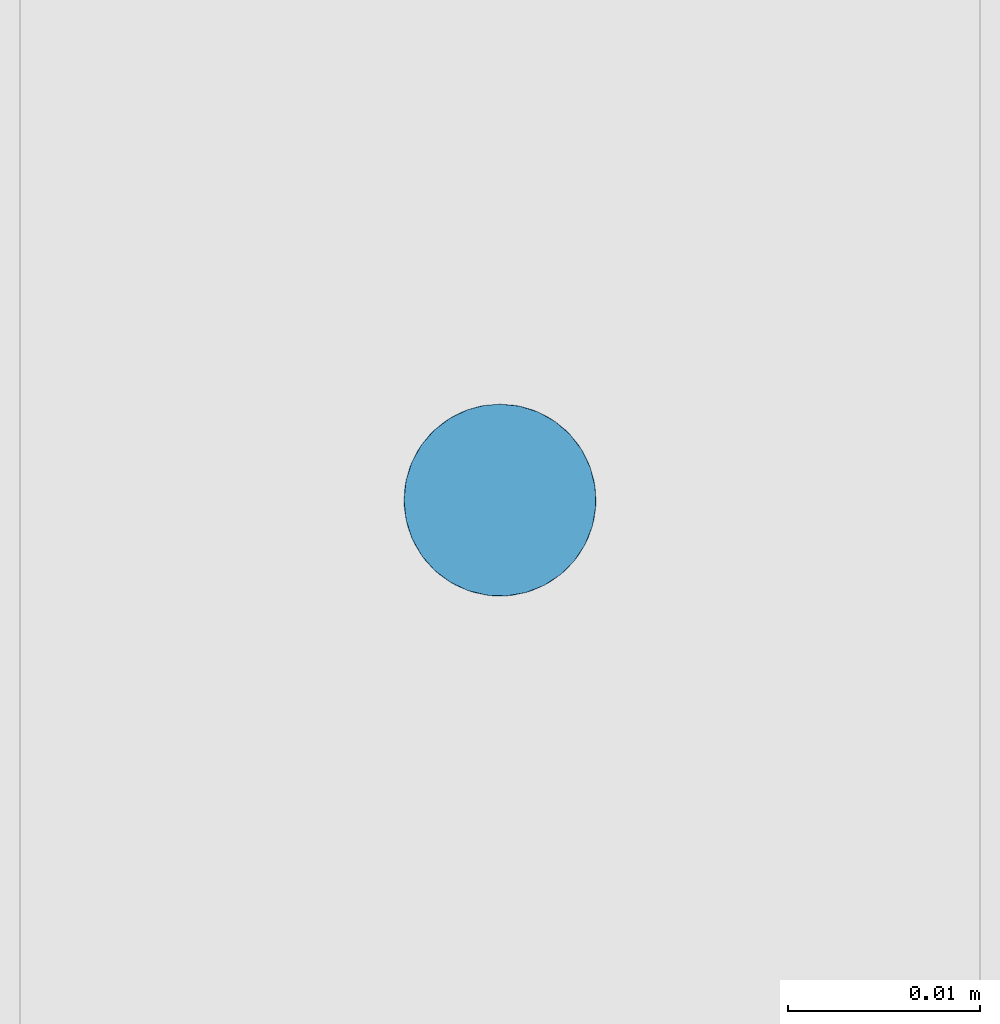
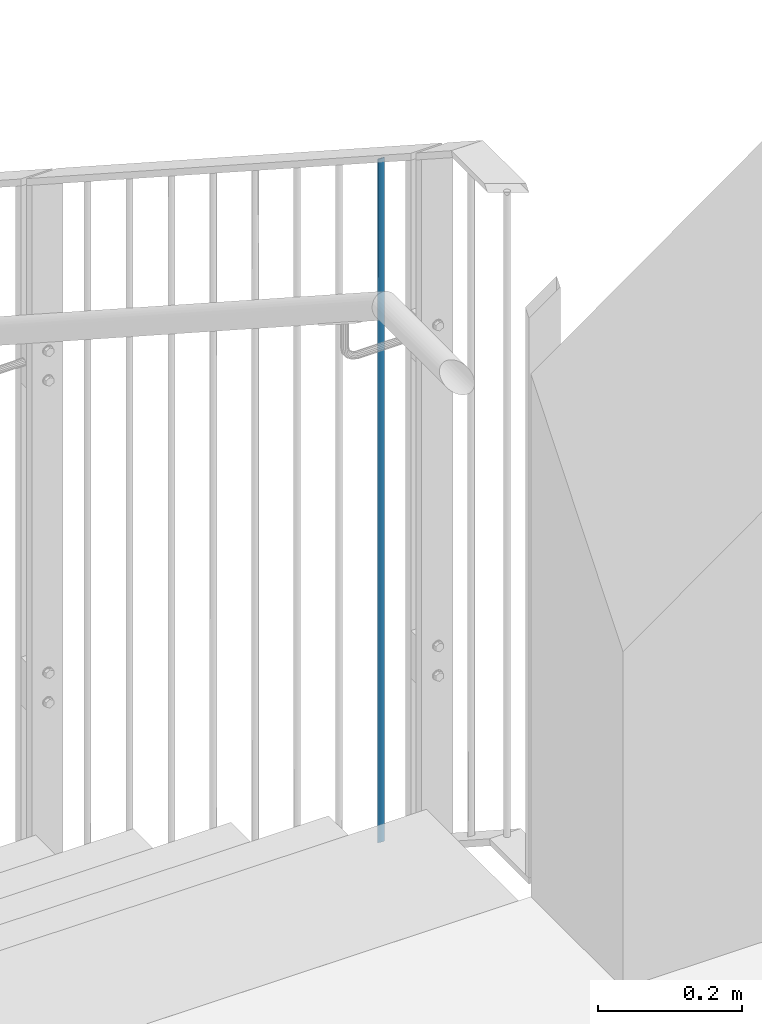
# One storey, part 28 of 296: 1 column.
"""IFC2X3 building model written with IfcOpenShell, lengths in millimetres."""

from ifc_helpers import new_model, entity, si_unit, converted_unit, frame, origin, origin_with_axes, origin_2d, place, context, project, spatial, circle, extrude, clip, halfspace, material, element, save


model = new_model("IFC2X3")

# Units and contexts
model_context = context("Model", 3, precision=1e-09, world=origin_with_axes())
ifc_project = project(units=[si_unit("LENGTHUNIT", "METRE", prefix="MILLI"), si_unit("AREAUNIT", "SQUARE_METRE"), si_unit("VOLUMEUNIT", "CUBIC_METRE"), converted_unit("PLANEANGLEUNIT", "DEGREE", entity("IfcPlaneAngleMeasure", 0.01745329), si_unit("PLANEANGLEUNIT", "RADIAN"), dimensions=[0, 0, 0, 0, 0, 0, 0])], contexts=[model_context])

# Site, building, storey
site_placement = place(None, origin_with_axes())
site = spatial("IfcSite", under=ifc_project, at=site_placement, Name="TZD-S?d | Treppenhausgel?nder", CompositionType="ELEMENT")
building_placement = place(site_placement, origin_with_axes())
building = spatial("IfcBuilding", under=site, at=building_placement, Name="Struktur 1", CompositionType="ELEMENT")
storey_placement = place(building_placement, origin_with_axes())
storey = spatial("IfcBuildingStorey", under=building, at=storey_placement, Name="Default Storey", CompositionType="ELEMENT", Elevation=0.0)

# Column
ifc_material = material(Name="S235JR")
column_placement = place(None, frame((5894.999, -3281.3888889, 4663.253975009), z_axis=(0.0, 0.0, -1.0), x_axis=(0.0, 1.0, 0.0)))
element("IfcColumn", 1, at=column_placement, inside=storey, material=ifc_material, Name="-", ObjectType="-", context=model_context, shape_type="Clipping", body=[
    clip(clip(extrude(circle(Radius=5.0, at=origin_2d()), origin(), (0.0, 0.0, -1.0), 1184.932529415), halfspace(frame((4446.807973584, -5894.999, 2860.778441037), z_axis=(0.542959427, 0.0, -0.83975893), x_axis=(0.0, -1.0, 0.0)), True)), halfspace(frame((4973.974631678, -5894.999, 2045.445127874), z_axis=(-0.542959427, 0.0, 0.83975893), x_axis=(0.0, 1.0, 0.0)), True)),
])

save(model, "model.ifc")
